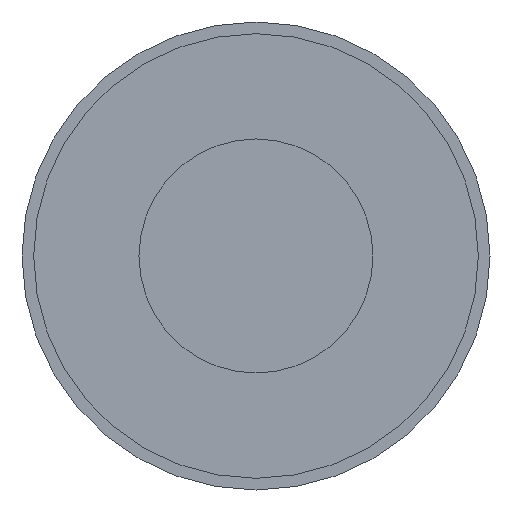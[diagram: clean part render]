
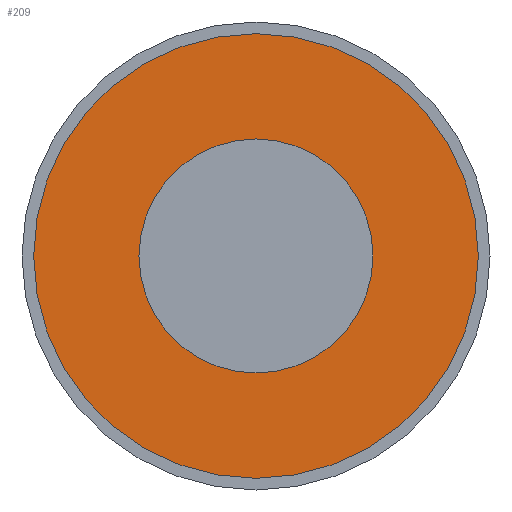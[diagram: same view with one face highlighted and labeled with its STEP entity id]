
A CAD part, front view. The second image highlights one B-rep face of the part: STEP entity #209.
In plain terms, the highlighted planar face has unit normal (0, -1, 0).
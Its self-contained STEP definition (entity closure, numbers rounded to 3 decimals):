
#46=FACE_BOUND('',#74,.T.);
#55=FACE_OUTER_BOUND('',#73,.T.);
#73=EDGE_LOOP('',(#159));
#74=EDGE_LOOP('',(#160));
#95=CIRCLE('',#244,4.75);
#96=CIRCLE('',#246,2.5);
#111=VERTEX_POINT('',#356);
#112=VERTEX_POINT('',#360);
#128=EDGE_CURVE('',#111,#111,#95,.T.);
#130=EDGE_CURVE('',#112,#112,#96,.T.);
#159=ORIENTED_EDGE('',*,*,#128,.T.);
#160=ORIENTED_EDGE('',*,*,#130,.T.);
#198=PLANE('',#247);
#209=ADVANCED_FACE('',(#55,#46),#198,.T.);
#244=AXIS2_PLACEMENT_3D('',#358,#284,#285);
#246=AXIS2_PLACEMENT_3D('',#362,#289,#290);
#247=AXIS2_PLACEMENT_3D('',#363,#291,#292);
#284=DIRECTION('center_axis',(0.,-1.,0.));
#285=DIRECTION('ref_axis',(-1.,0.,0.));
#289=DIRECTION('center_axis',(0.,1.,0.));
#290=DIRECTION('ref_axis',(-1.,0.,0.));
#291=DIRECTION('center_axis',(0.,-1.,0.));
#292=DIRECTION('ref_axis',(0.,0.,-1.));
#356=CARTESIAN_POINT('',(4.75,925.,0.));
#358=CARTESIAN_POINT('Origin',(0.,925.,0.));
#360=CARTESIAN_POINT('',(2.5,925.,0.));
#362=CARTESIAN_POINT('Origin',(0.,925.,0.));
#363=CARTESIAN_POINT('Origin',(0.,925.,0.));
